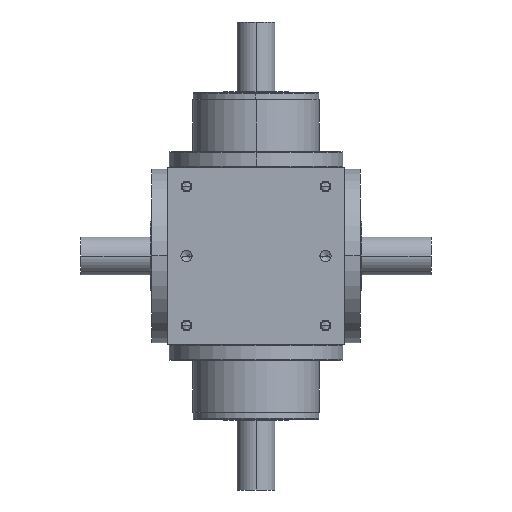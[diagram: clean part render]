
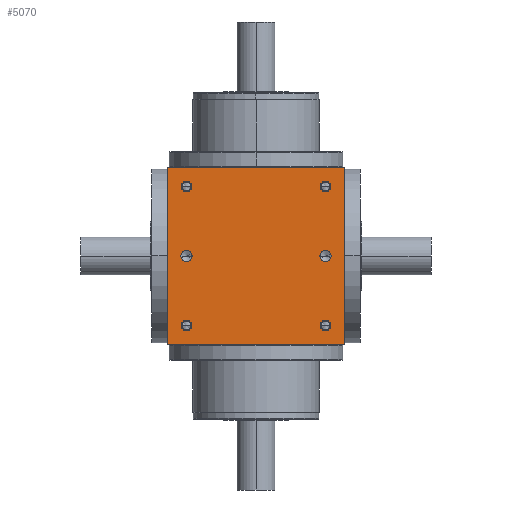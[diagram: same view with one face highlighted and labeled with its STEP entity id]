
A CAD part, front view. The second image highlights one B-rep face of the part: STEP entity #5070.
In plain terms, the highlighted planar face has unit normal (0, -1, 0).
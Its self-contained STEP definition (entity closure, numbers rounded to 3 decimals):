
#5=DIRECTION('',(1.,0.,0.));
#6=VECTOR('',#5,280.);
#7=CARTESIAN_POINT('',(-140.,-140.,-140.));
#8=LINE('',#7,#6);
#165=DIRECTION('',(0.,0.,1.));
#166=VECTOR('',#165,280.);
#167=CARTESIAN_POINT('',(140.,-140.,-140.));
#168=LINE('',#167,#166);
#219=DIRECTION('',(0.,0.,1.));
#220=VECTOR('',#219,280.);
#221=CARTESIAN_POINT('',(-140.,-140.,-140.));
#222=LINE('',#221,#220);
#223=CARTESIAN_POINT('',(110.,-140.,110.));
#224=DIRECTION('',(0.,1.,0.));
#225=DIRECTION('',(-1.,0.,0.));
#226=AXIS2_PLACEMENT_3D('',#223,#224,#225);
#228=CARTESIAN_POINT('',(110.,-140.,110.));
#229=DIRECTION('',(0.,1.,0.));
#230=DIRECTION('',(1.,0.,0.));
#231=AXIS2_PLACEMENT_3D('',#228,#229,#230);
#233=CARTESIAN_POINT('',(-110.,-140.,110.));
#234=DIRECTION('',(0.,1.,0.));
#235=DIRECTION('',(-1.,0.,0.));
#236=AXIS2_PLACEMENT_3D('',#233,#234,#235);
#238=CARTESIAN_POINT('',(-110.,-140.,110.));
#239=DIRECTION('',(0.,1.,0.));
#240=DIRECTION('',(1.,0.,0.));
#241=AXIS2_PLACEMENT_3D('',#238,#239,#240);
#243=CARTESIAN_POINT('',(110.,-140.,-110.));
#244=DIRECTION('',(0.,1.,0.));
#245=DIRECTION('',(-1.,0.,0.));
#246=AXIS2_PLACEMENT_3D('',#243,#244,#245);
#248=CARTESIAN_POINT('',(110.,-140.,-110.));
#249=DIRECTION('',(0.,1.,0.));
#250=DIRECTION('',(1.,0.,0.));
#251=AXIS2_PLACEMENT_3D('',#248,#249,#250);
#253=CARTESIAN_POINT('',(-110.,-140.,-110.));
#254=DIRECTION('',(0.,1.,0.));
#255=DIRECTION('',(-1.,0.,0.));
#256=AXIS2_PLACEMENT_3D('',#253,#254,#255);
#258=CARTESIAN_POINT('',(-110.,-140.,-110.));
#259=DIRECTION('',(0.,1.,0.));
#260=DIRECTION('',(1.,0.,0.));
#261=AXIS2_PLACEMENT_3D('',#258,#259,#260);
#263=CARTESIAN_POINT('',(-110.,-140.,0.));
#264=DIRECTION('',(0.,1.,0.));
#265=DIRECTION('',(1.,0.,0.));
#266=AXIS2_PLACEMENT_3D('',#263,#264,#265);
#268=CARTESIAN_POINT('',(-110.,-140.,0.));
#269=DIRECTION('',(0.,1.,0.));
#270=DIRECTION('',(-1.,0.,0.));
#271=AXIS2_PLACEMENT_3D('',#268,#269,#270);
#273=CARTESIAN_POINT('',(110.,-140.,0.));
#274=DIRECTION('',(0.,1.,0.));
#275=DIRECTION('',(1.,0.,0.));
#276=AXIS2_PLACEMENT_3D('',#273,#274,#275);
#278=CARTESIAN_POINT('',(110.,-140.,0.));
#279=DIRECTION('',(0.,1.,0.));
#280=DIRECTION('',(-1.,0.,0.));
#281=AXIS2_PLACEMENT_3D('',#278,#279,#280);
#295=DIRECTION('',(1.,0.,0.));
#296=VECTOR('',#295,280.);
#297=CARTESIAN_POINT('',(-140.,-140.,140.));
#298=LINE('',#297,#296);
#4044=CARTESIAN_POINT('',(-140.,-140.,-140.));
#4046=VERTEX_POINT('',#4044);
#4047=CARTESIAN_POINT('',(140.,-140.,-140.));
#4048=VERTEX_POINT('',#4047);
#4052=CARTESIAN_POINT('',(-140.,-140.,140.));
#4054=VERTEX_POINT('',#4052);
#4055=CARTESIAN_POINT('',(140.,-140.,140.));
#4056=VERTEX_POINT('',#4055);
#4235=CARTESIAN_POINT('',(101.6,-140.,110.));
#4236=CARTESIAN_POINT('',(118.4,-140.,110.));
#4237=VERTEX_POINT('',#4235);
#4238=VERTEX_POINT('',#4236);
#4243=CARTESIAN_POINT('',(-118.4,-140.,110.));
#4244=CARTESIAN_POINT('',(-101.6,-140.,110.));
#4245=VERTEX_POINT('',#4243);
#4246=VERTEX_POINT('',#4244);
#4251=CARTESIAN_POINT('',(101.6,-140.,-110.));
#4252=CARTESIAN_POINT('',(118.4,-140.,-110.));
#4253=VERTEX_POINT('',#4251);
#4254=VERTEX_POINT('',#4252);
#4259=CARTESIAN_POINT('',(-118.4,-140.,-110.));
#4260=CARTESIAN_POINT('',(-101.6,-140.,-110.));
#4261=VERTEX_POINT('',#4259);
#4262=VERTEX_POINT('',#4260);
#4619=CARTESIAN_POINT('',(-100.95,-140.,0.));
#4620=CARTESIAN_POINT('',(-119.05,-140.,0.));
#4621=VERTEX_POINT('',#4619);
#4622=VERTEX_POINT('',#4620);
#4627=CARTESIAN_POINT('',(119.05,-140.,0.));
#4628=CARTESIAN_POINT('',(100.95,-140.,0.));
#4629=VERTEX_POINT('',#4627);
#4630=VERTEX_POINT('',#4628);
#5022=CARTESIAN_POINT('',(-140.,-140.,-140.));
#5023=DIRECTION('',(0.,-1.,0.));
#5024=DIRECTION('',(1.,0.,0.));
#5025=AXIS2_PLACEMENT_3D('',#5022,#5023,#5024);
#5026=PLANE('',#5025);
#5027=ORIENTED_EDGE('',*,*,#4856,.F.);
#5028=ORIENTED_EDGE('',*,*,#4905,.T.);
#5030=ORIENTED_EDGE('',*,*,#5029,.T.);
#5031=ORIENTED_EDGE('',*,*,#4984,.F.);
#5032=EDGE_LOOP('',(#5027,#5028,#5030,#5031));
#5033=FACE_OUTER_BOUND('',#5032,.F.);
#5035=ORIENTED_EDGE('',*,*,#5034,.F.);
#5037=ORIENTED_EDGE('',*,*,#5036,.F.);
#5038=EDGE_LOOP('',(#5035,#5037));
#5039=FACE_BOUND('',#5038,.F.);
#5041=ORIENTED_EDGE('',*,*,#5040,.F.);
#5043=ORIENTED_EDGE('',*,*,#5042,.F.);
#5044=EDGE_LOOP('',(#5041,#5043));
#5045=FACE_BOUND('',#5044,.F.);
#5047=ORIENTED_EDGE('',*,*,#5046,.F.);
#5049=ORIENTED_EDGE('',*,*,#5048,.F.);
#5050=EDGE_LOOP('',(#5047,#5049));
#5051=FACE_BOUND('',#5050,.F.);
#5053=ORIENTED_EDGE('',*,*,#5052,.F.);
#5055=ORIENTED_EDGE('',*,*,#5054,.F.);
#5056=EDGE_LOOP('',(#5053,#5055));
#5057=FACE_BOUND('',#5056,.F.);
#5059=ORIENTED_EDGE('',*,*,#5058,.F.);
#5061=ORIENTED_EDGE('',*,*,#5060,.F.);
#5062=EDGE_LOOP('',(#5059,#5061));
#5063=FACE_BOUND('',#5062,.F.);
#5065=ORIENTED_EDGE('',*,*,#5064,.F.);
#5067=ORIENTED_EDGE('',*,*,#5066,.F.);
#5068=EDGE_LOOP('',(#5065,#5067));
#5069=FACE_BOUND('',#5068,.F.);
#5070=ADVANCED_FACE('',(#5033,#5039,#5045,#5051,#5057,#5063,#5069),#5026,.T.);
#227=CIRCLE('',#226,8.4);
#232=CIRCLE('',#231,8.4);
#237=CIRCLE('',#236,8.4);
#242=CIRCLE('',#241,8.4);
#247=CIRCLE('',#246,8.4);
#252=CIRCLE('',#251,8.4);
#257=CIRCLE('',#256,8.4);
#262=CIRCLE('',#261,8.4);
#267=CIRCLE('',#266,9.05);
#272=CIRCLE('',#271,9.05);
#277=CIRCLE('',#276,9.05);
#282=CIRCLE('',#281,9.05);
#4856=EDGE_CURVE('',#4046,#4048,#8,.T.);
#4905=EDGE_CURVE('',#4046,#4054,#222,.T.);
#4984=EDGE_CURVE('',#4048,#4056,#168,.T.);
#5029=EDGE_CURVE('',#4054,#4056,#298,.T.);
#5034=EDGE_CURVE('',#4237,#4238,#227,.T.);
#5036=EDGE_CURVE('',#4238,#4237,#232,.T.);
#5040=EDGE_CURVE('',#4245,#4246,#237,.T.);
#5042=EDGE_CURVE('',#4246,#4245,#242,.T.);
#5046=EDGE_CURVE('',#4253,#4254,#247,.T.);
#5048=EDGE_CURVE('',#4254,#4253,#252,.T.);
#5052=EDGE_CURVE('',#4261,#4262,#257,.T.);
#5054=EDGE_CURVE('',#4262,#4261,#262,.T.);
#5058=EDGE_CURVE('',#4621,#4622,#267,.T.);
#5060=EDGE_CURVE('',#4622,#4621,#272,.T.);
#5064=EDGE_CURVE('',#4629,#4630,#277,.T.);
#5066=EDGE_CURVE('',#4630,#4629,#282,.T.);
